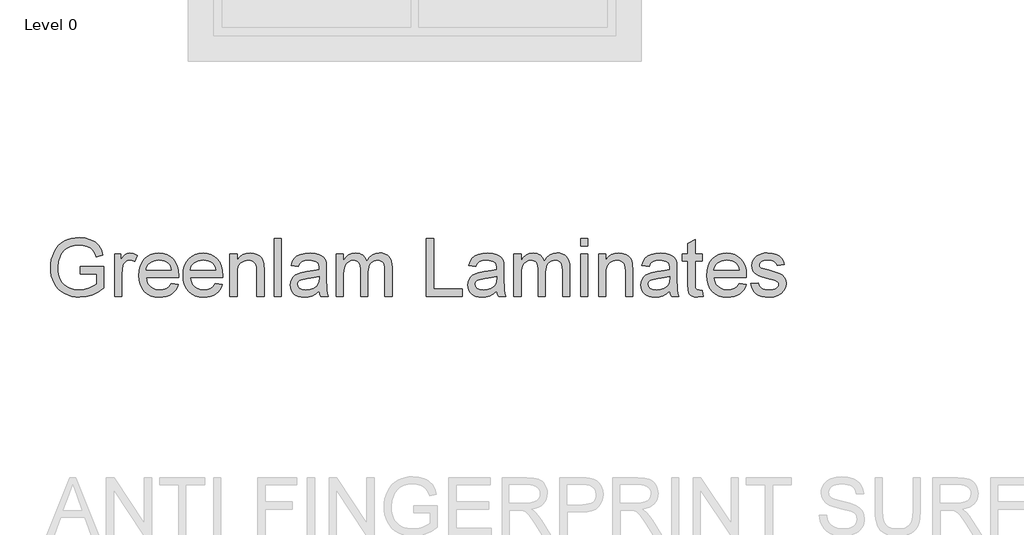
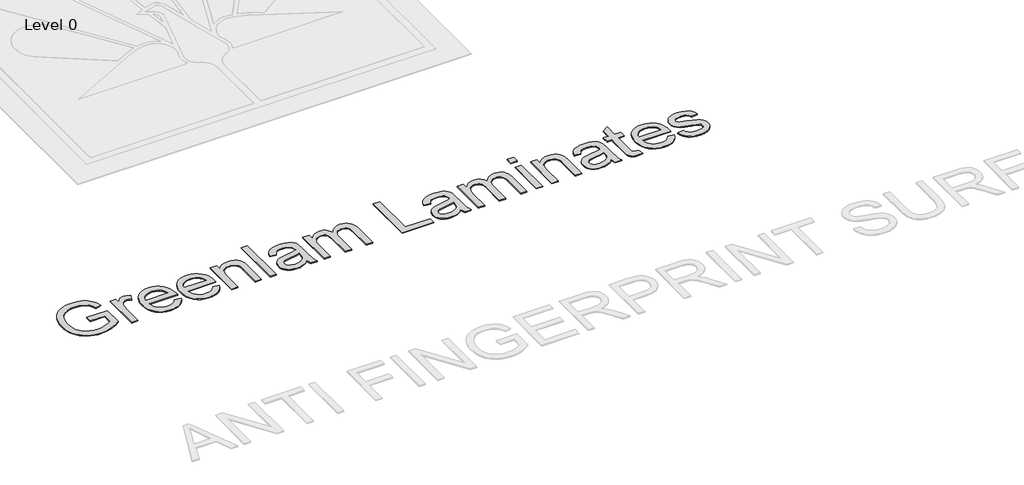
# One storey, part 8 of 8: 1 proxy.
"""IFC4 building model written with IfcOpenShell, lengths in millimetres."""

from ifc_helpers import new_model, si_unit, origin, origin_with_axes, place, context, project, spatial, polyline, outline, extrude, element, save

model = new_model("IFC4")

# Units and contexts
model_context = context("Model", 3, world=origin())
ifc_project = project(units=[si_unit("LENGTHUNIT", "METRE", prefix="MILLI")], contexts=[model_context])

# Site, building, storey
site = spatial("IfcSite", under=ifc_project)
building = spatial("IfcBuilding", under=site)
storey = spatial("IfcBuildingStorey", under=building, Name="Level 0", Elevation=0.0)

# Proxy
placement = place(None, origin())
element("IfcBuildingElementProxy", 1, Name="600mm Arial", ObjectType="600mm Arial", at=placement, inside=storey, context=model_context, shape_type="SweptSolid", body=[
    extrude(outline(polyline([(-10594.9298129, 2995.5724296), (-10594.9298129, 3070.9146622), (-10350.067557, 3070.9146622), (-10350.067557, 2845.6237284), (-10409.5724697, 2804.2370039), (-10470.9535806, 2774.5489269), (-10534.0637368, 2756.6698619), (-10598.7557857, 2750.7101736), (-10642.0325039, 2753.0784139), (-10683.2766741, 2760.183135), (-10722.4882962, 2772.0243367), (-10759.6673704, 2788.6020191), (-10793.6136815, 2809.6678618), (-10823.1270146, 2834.9735446), (-10848.2073696, 2864.5190673), (-10868.8547466, 2898.3044301), (-10884.9817735, 2935.2489794), (-10896.5010785, 2974.2720621), (-10903.4126615, 3015.373678), (-10905.7165225, 3058.5538272), (-10903.4218585, 3101.7385749), (-10896.5378667, 3143.4425975), (-10885.064547, 3183.6658952), (-10869.0018994, 3222.4084678), (-10848.6350324, 3257.9688612), (-10824.2490546, 3288.645621), (-10795.8439661, 3314.4387474), (-10763.4197667, 3335.3482403), (-10727.6800309, 3351.507457), (-10689.3283329, 3363.0497546), (-10648.3646727, 3369.9751331), (-10604.7890504, 3372.2835926), (-10542.7273578, 3366.9309096), (-10486.9196592, 3350.8728605), (-10462.0002525, 3339.1190308), (-10439.9227343, 3325.2682737), (-10420.6871045, 3309.3205892), (-10404.293363, 3291.2759773), (-10377.9346181, 3247.2588966), (-10358.749572, 3191.5799566), (-10428.2056927, 3172.0086345), (-10443.7119188, 3211.7214959), (-10462.5658711, 3241.6854844), (-10487.5082704, 3264.2734389), (-10521.2798375, 3281.8581982), (-10561.5445219, 3293.1705696), (-10605.9662728, 3296.94136), (-10657.9663928, 3292.876264), (-10702.4249319, 3280.6809758), (-10739.1763433, 3261.8822059), (-10768.0550799, 3238.0066644), (-10790.2199701, 3210.2867561), (-10806.8298422, 3179.9548856), (-10824.4881779, 3123.0803291), (-10830.3742899, 3061.6440359), (-10828.6038578, 3024.0235034), (-10823.2925615, 2989.5943472), (-10814.4404009, 2958.3565672), (-10802.0473762, 2930.3101636), (-10786.2744357, 2905.5609024), (-10767.2825277, 2884.2145496), (-10745.0716522, 2866.2711053), (-10719.6418093, 2851.7305695), (-10692.1840169, 2840.496373), (-10663.8892929, 2832.471947), (-10634.7576374, 2827.6572914), (-10604.7890504, 2826.0524062), (-10552.6049894, 2830.8900544), (-10501.7085154, 2845.4029992), (-10457.5074936, 2865.3973856), (-10425.4097896, 2886.679359), (-10425.4097896, 2995.5724296), (-10594.9298129, 2995.5724296)])), origin_with_axes(), (0.0, 0.0, 1.0), 10.0),
    extrude(outline(polyline([(-10237.054208, 2760.1279527), (-10237.054208, 3202.7635693), (-10171.1297545, 3202.7635693), (-10171.1297545, 3137.2805741), (-10146.7759664, 3175.245996), (-10124.3351647, 3197.6132213), (-10101.8207866, 3208.5393166), (-10077.2462693, 3212.1813483), (-10039.7223058, 3206.3688128), (-10001.6097311, 3188.9312062), (-10026.7728596, 3121.3880719), (-10053.2603632, 3132.9763548), (-10079.7478669, 3136.8391157), (-10102.2438509, 3133.1235076), (-10122.3486019, 3121.9766831), (-10138.590592, 3104.244771), (-10149.4982932, 3080.7738997), (-10158.6585549, 3038.6881994), (-10161.7119754, 2992.7765264), (-10161.7119754, 2760.1279527), (-10237.054208, 2760.1279527)])), origin_with_axes(), (0.0, 0.0, 1.0), 10.0),
    extrude(outline(polyline([(-9644.617043, 2891.9768597), (-9570.7463384, 2882.5590807), (-9582.0725053, 2852.9721712), (-9597.3626007, 2826.8985348), (-9616.6166246, 2804.3381714), (-9639.8345771, 2785.2910811), (-9666.7773347, 2770.1619341), (-9697.2057742, 2759.3554005), (-9731.1198956, 2752.8714803), (-9768.519699, 2750.7101736), (-9815.2683035, 2754.4395773), (-9856.9217424, 2765.6277885), (-9893.4800157, 2784.2748071), (-9924.9431233, 2810.3806332), (-9950.2442075, 2843.2186998), (-9968.3164106, 2882.06244), (-9979.1597324, 2926.9118537), (-9982.774173, 2977.766941), (-9979.1229442, 3030.3464752), (-9968.1692578, 3076.6904095), (-9949.9131138, 3116.798744), (-9924.3545121, 3150.6714788), (-9892.9741779, 3177.5820467), (-9857.2528362, 3196.8038809), (-9817.1904869, 3208.3369815), (-9772.7871301, 3212.1813483), (-9729.8139146, 3208.3461785), (-9690.9517803, 3196.8406691), (-9656.2007273, 3177.6648201), (-9625.5607557, 3150.8186315), (-9600.5493785, 3117.0194732), (-9582.6841091, 3076.9847151), (-9571.9649475, 3030.7143572), (-9568.3918936, 2978.2083994), (-9568.833352, 2957.9013133), (-9907.4319404, 2957.9013133), (-9903.0679402, 2927.8361572), (-9894.3905236, 2901.5050034), (-9881.3996907, 2878.9078519), (-9864.0954413, 2860.0447026), (-9843.4342688, 2845.1730729), (-9820.3726662, 2834.5504803), (-9794.9106336, 2828.1769247), (-9767.048171, 2826.0524062), (-9726.9490335, 2829.9887436), (-9693.1774664, 2841.7977556), (-9665.7334695, 2862.2152063), (-9644.617043, 2891.9768597)]), holes=[polyline([(-9907.4319404, 3033.2435459), (-9643.7341262, 3033.2435459), (-9653.9244575, 3073.0483778), (-9662.689246, 3088.7017567), (-9673.9004498, 3101.5224442), (-9694.4466593, 3116.973488), (-9717.82556, 3128.0099478), (-9744.0371522, 3134.6318238), (-9773.0814357, 3136.8391157), (-9799.5735379, 3135.0778807), (-9823.8675452, 3129.7941755), (-9845.9634575, 3120.9880003), (-9865.8612749, 3108.6593549), (-9882.558519, 3093.3784565), (-9895.0527112, 3075.7155222), (-9903.3438517, 3055.670552), (-9907.4319404, 3033.2435459)])]), origin_with_axes(), (0.0, 0.0, 1.0), 10.0),
    extrude(outline(polyline([(-9183.1458683, 2891.9768597), (-9109.2751636, 2882.5590807), (-9120.6013305, 2852.9721712), (-9135.891426, 2826.8985348), (-9155.1454499, 2804.3381714), (-9178.3634023, 2785.2910811), (-9205.3061599, 2770.1619341), (-9235.7345995, 2759.3554005), (-9269.6487209, 2752.8714803), (-9307.0485242, 2750.7101736), (-9353.7971288, 2754.4395773), (-9395.4505677, 2765.6277885), (-9432.0088409, 2784.2748071), (-9463.4719486, 2810.3806332), (-9488.7730328, 2843.2186998), (-9506.8452358, 2882.06244), (-9517.6885576, 2926.9118537), (-9521.3029982, 2977.766941), (-9517.6517694, 3030.3464752), (-9506.698083, 3076.6904095), (-9488.441939, 3116.798744), (-9462.8833374, 3150.6714788), (-9431.5030032, 3177.5820467), (-9395.7816615, 3196.8038809), (-9355.7193122, 3208.3369815), (-9311.3159554, 3212.1813483), (-9268.3427398, 3208.3461785), (-9229.4806055, 3196.8406691), (-9194.7295526, 3177.6648201), (-9164.0895809, 3150.8186315), (-9139.0782038, 3117.0194732), (-9121.2129344, 3076.9847151), (-9110.4937727, 3030.7143572), (-9106.9207189, 2978.2083994), (-9107.3621772, 2957.9013133), (-9445.9607656, 2957.9013133), (-9441.5967654, 2927.8361572), (-9432.9193489, 2901.5050034), (-9419.9285159, 2878.9078519), (-9402.6242666, 2860.0447026), (-9381.963094, 2845.1730729), (-9358.9014915, 2834.5504803), (-9333.4394589, 2828.1769247), (-9305.5769962, 2826.0524062), (-9265.4778588, 2829.9887436), (-9231.7062916, 2841.7977556), (-9204.2622948, 2862.2152063), (-9183.1458683, 2891.9768597)]), holes=[polyline([(-9445.9607656, 3033.2435459), (-9182.2629515, 3033.2435459), (-9192.4532827, 3073.0483778), (-9201.2180713, 3088.7017567), (-9212.4292751, 3101.5224442), (-9232.9754845, 3116.973488), (-9256.3543853, 3128.0099478), (-9282.5659775, 3134.6318238), (-9311.610261, 3136.8391157), (-9338.1023631, 3135.0778807), (-9362.3963704, 3129.7941755), (-9384.4922827, 3120.9880003), (-9404.3901002, 3108.6593549), (-9421.0873442, 3093.3784565), (-9433.5815365, 3075.7155222), (-9441.8726769, 3055.670552), (-9445.9607656, 3033.2435459)])]), origin_with_axes(), (0.0, 0.0, 1.0), 10.0),
    extrude(outline(polyline([(-9031.5784862, 2760.1279527), (-9031.5784862, 3202.7635693), (-8956.2362536, 3202.7635693), (-8956.2362536, 3140.9593941), (-8930.0614497, 3172.1189991), (-8898.6259332, 3194.3758598), (-8861.9297042, 3207.7299762), (-8819.9727626, 3212.1813483), (-8782.8350752, 3208.5944989), (-8748.8243847, 3197.8339505), (-8720.4606829, 3181.2424725), (-8700.2639614, 3160.1628342), (-8686.5603571, 3134.6502179), (-8677.6760069, 3104.7598058), (-8673.7028813, 3031.9191707), (-8673.7028813, 2760.1279527), (-8749.0451139, 2760.1279527), (-8749.0451139, 3021.7656276), (-8751.2156177, 3060.7243309), (-8757.727129, 3088.4258452), (-8769.7384762, 3108.2730788), (-8788.4084874, 3123.6689403), (-8812.3392112, 3133.5465719), (-8840.132696, 3136.8391157), (-8863.0103575, 3134.9905087), (-8884.2601413, 3129.4446876), (-8903.8820472, 3120.2016525), (-8921.8760753, 3107.2614033), (-8936.9086533, 3089.1524121), (-8947.646209, 3064.4031509), (-8954.0887425, 3033.0136196), (-8956.2362536, 2994.9838184), (-8956.2362536, 2760.1279527), (-9031.5784862, 2760.1279527)])), origin_with_axes(), (0.0, 0.0, 1.0), 10.0),
    extrude(outline(polyline([(-8570.1073115, 2760.1279527), (-8570.1073115, 3362.8658136), (-8494.7650789, 3362.8658136), (-8494.7650789, 2760.1279527), (-8570.1073115, 2760.1279527)])), origin_with_axes(), (0.0, 0.0, 1.0), 10.0),
    extrude(outline(polyline([(-8099.2183577, 2816.6346271), (-8135.2156109, 2785.7693277), (-8172.2797219, 2765.5726062), (-8211.2568193, 2754.4257817), (-8252.9930316, 2750.7101736), (-8286.5392711, 2752.9450567), (-8315.9560351, 2759.6497061), (-8341.2433238, 2770.8241217), (-8362.401137, 2786.4683035), (-8379.1075781, 2805.5889702), (-8391.0407503, 2827.1928404), (-8398.2006537, 2851.279914), (-8400.5872881, 2877.8501911), (-8396.9820446, 2909.0833725), (-8386.1663139, 2937.4470743), (-8369.4828654, 2961.727286), (-8348.2744684, 2980.709997), (-8323.3504632, 2995.0573948), (-8295.5201903, 3005.4316671), (-8230.3315007, 3016.7624325), (-8153.297011, 3028.6818092), (-8099.6598161, 3042.661325), (-8099.2183577, 3059.4367439), (-8104.4054938, 3093.0611583), (-8110.889414, 3105.5139638), (-8119.9669022, 3115.0605016), (-8135.6570693, 3124.5886453), (-8154.7685389, 3131.3944622), (-8203.2553859, 3136.8391157), (-8248.1369893, 3133.2154781), (-8279.4805353, 3122.3445651), (-8300.8544792, 3102.2398141), (-8315.8272764, 3070.9146622), (-8391.169509, 3080.3324413), (-8378.0913041, 3121.5352247), (-8358.5751643, 3153.9088403), (-8330.8000736, 3178.6672986), (-8292.9450163, 3197.0246101), (-8246.6470672, 3208.3921638), (-8193.5433012, 3212.1813483), (-8142.610039, 3208.8336222), (-8102.23499, 3198.7904437), (-8071.7927549, 3183.6888878), (-8050.6579343, 3165.1660294), (-8036.6416303, 3142.2653752), (-8027.554945, 3114.030432), (-8023.8761251, 3048.1059785), (-8023.8761251, 2954.3696461), (-8020.0501523, 2823.4772322), (-8014.3847696, 2791.1220108), (-8005.0405669, 2760.1279527), (-8080.3827995, 2760.1279527), (-8092.449329, 2786.3211507), (-8099.2183577, 2816.6346271)]), holes=[polyline([(-8099.2183577, 2967.3190924), (-8149.8389202, 2954.7743163), (-8220.7665689, 2944.2161031), (-8285.5873764, 2932.0024208), (-8302.4547659, 2923.6514995), (-8314.9443596, 2912.1367931), (-8322.6698815, 2898.3412183), (-8325.2450555, 2883.1476919), (-8319.6348551, 2860.7436784), (-8302.8042538, 2842.3863668), (-8275.1211337, 2830.1358964), (-8236.9533767, 2826.0524062), (-8196.4863572, 2830.5589606), (-8160.7282273, 2844.078624), (-8131.739126, 2863.999434), (-8111.5791927, 2887.7094286), (-8102.6396602, 2912.1367931), (-8099.6598161, 2945.9819366), (-8099.2183577, 2967.3190924)])]), origin_with_axes(), (0.0, 0.0, 1.0), 10.0),
    extrude(outline(polyline([(-7920.2805552, 2760.1279527), (-7920.2805552, 3202.7635693), (-7844.9383226, 3202.7635693), (-7844.9383226, 3129.9229342), (-7822.2767917, 3163.3818017), (-7793.1405377, 3189.5933938), (-7758.5228419, 3206.5343597), (-7719.4169858, 3212.1813483), (-7677.5152266, 3206.4239951), (-7659.6821469, 3199.2273036), (-7643.9276004, 3189.1519354), (-7618.8380484, 3161.5056035), (-7602.4305114, 3124.6254335), (-7574.9681204, 3162.9311462), (-7543.6429685, 3190.2923696), (-7508.4550557, 3206.7091037), (-7469.4043819, 3212.1813483), (-7439.2426568, 3209.9050785), (-7412.7689488, 3203.076269), (-7389.9832577, 3191.6949197), (-7370.8855836, 3175.7610308), (-7355.7886262, 3155.0906612), (-7345.0050853, 3129.4998699), (-7338.5349607, 3098.988657), (-7336.3782525, 3063.5570223), (-7336.3782525, 2760.1279527), (-7411.7204851, 2760.1279527), (-7411.7204851, 3031.1834067), (-7413.4679246, 3068.7625525), (-7418.710243, 3094.0912279), (-7428.5326923, 3111.436864), (-7444.0205243, 3125.0668919), (-7463.9413343, 3133.8960598), (-7487.0627177, 3136.8391157), (-7508.413669, 3134.9537205), (-7527.8792251, 3129.2975348), (-7545.4593859, 3119.8705587), (-7561.1541515, 3106.6727921), (-7574.062211, 3089.317959), (-7583.2822535, 3067.4197832), (-7588.814279, 3040.9782648), (-7590.6582875, 3009.9934038), (-7590.6582875, 2760.1279527), (-7666.0005201, 2760.1279527), (-7666.0005201, 3039.5711162), (-7670.3599218, 3082.1718512), (-7675.8091738, 3098.8920879), (-7683.4381267, 3112.5589041), (-7693.5502831, 3123.1814967), (-7706.4491455, 3130.7690628), (-7722.1347141, 3135.3216025), (-7740.6069888, 3136.8391157), (-7769.6328782, 3132.7924138), (-7796.3778992, 3120.6523079), (-7818.4508189, 3100.7131038), (-7833.4604044, 3073.269107), (-7842.068843, 3035.1933205), (-7844.9383226, 2983.3587473), (-7844.9383226, 2760.1279527), (-7920.2805552, 2760.1279527)])), origin_with_axes(), (0.0, 0.0, 1.0), 10.0),
    extrude(outline(polyline([(-6978.5026476, 2760.1279527), (-6978.5026476, 3362.8658136), (-6903.1604149, 3362.8658136), (-6903.1604149, 2835.4701853), (-6601.7914845, 2835.4701853), (-6601.7914845, 2760.1279527), (-6978.5026476, 2760.1279527)])), origin_with_axes(), (0.0, 0.0, 1.0), 10.0),
    extrude(outline(polyline([(-6243.9158796, 2816.6346271), (-6279.9131328, 2785.7693277), (-6316.9772438, 2765.5726062), (-6355.9543412, 2754.4257817), (-6397.6905536, 2750.7101736), (-6431.236793, 2752.9450567), (-6460.653557, 2759.6497061), (-6485.9408457, 2770.8241217), (-6507.0986589, 2786.4683035), (-6523.8051, 2805.5889702), (-6535.7382723, 2827.1928404), (-6542.8981756, 2851.279914), (-6545.28481, 2877.8501911), (-6541.6795665, 2909.0833725), (-6530.8638358, 2937.4470743), (-6514.1803873, 2961.727286), (-6492.9719903, 2980.709997), (-6468.0479852, 2995.0573948), (-6440.2177122, 3005.4316671), (-6375.0290227, 3016.7624325), (-6297.9945329, 3028.6818092), (-6244.357338, 3042.661325), (-6243.9158796, 3059.4367439), (-6249.1030157, 3093.0611583), (-6255.5869359, 3105.5139638), (-6264.6644241, 3115.0605016), (-6280.3545912, 3124.5886453), (-6299.4660609, 3131.3944622), (-6347.9529078, 3136.8391157), (-6392.8345112, 3133.2154781), (-6424.1780572, 3122.3445651), (-6445.5520011, 3102.2398141), (-6460.5247984, 3070.9146622), (-6535.867031, 3080.3324413), (-6522.788826, 3121.5352247), (-6503.2726862, 3153.9088403), (-6475.4975956, 3178.6672986), (-6437.6425383, 3197.0246101), (-6391.3445892, 3208.3921638), (-6338.2408232, 3212.1813483), (-6287.3075609, 3208.8336222), (-6246.932512, 3198.7904437), (-6216.4902768, 3183.6888878), (-6195.3554562, 3165.1660294), (-6181.3391522, 3142.2653752), (-6172.2524669, 3114.030432), (-6168.573647, 3048.1059785), (-6168.573647, 2954.3696461), (-6164.7476742, 2823.4772322), (-6159.0822915, 2791.1220108), (-6149.7380888, 2760.1279527), (-6225.0803214, 2760.1279527), (-6237.1468509, 2786.3211507), (-6243.9158796, 2816.6346271)]), holes=[polyline([(-6243.9158796, 2967.3190924), (-6294.5364421, 2954.7743163), (-6365.4640908, 2944.2161031), (-6430.2848983, 2932.0024208), (-6447.1522878, 2923.6514995), (-6459.6418816, 2912.1367931), (-6467.3674035, 2898.3412183), (-6469.9425774, 2883.1476919), (-6464.332377, 2860.7436784), (-6447.5017757, 2842.3863668), (-6419.8186556, 2830.1358964), (-6381.6508986, 2826.0524062), (-6341.1838791, 2830.5589606), (-6305.4257492, 2844.078624), (-6276.436648, 2863.999434), (-6256.2767146, 2887.7094286), (-6247.3371821, 2912.1367931), (-6244.357338, 2945.9819366), (-6243.9158796, 2967.3190924)])]), origin_with_axes(), (0.0, 0.0, 1.0), 10.0),
    extrude(outline(polyline([(-6064.9780771, 2760.1279527), (-6064.9780771, 3202.7635693), (-5989.6358445, 3202.7635693), (-5989.6358445, 3129.9229342), (-5966.9743136, 3163.3818017), (-5937.8380596, 3189.5933938), (-5903.2203639, 3206.5343597), (-5864.1145078, 3212.1813483), (-5822.2127485, 3206.4239951), (-5804.3796688, 3199.2273036), (-5788.6251224, 3189.1519354), (-5763.5355703, 3161.5056035), (-5747.1280333, 3124.6254335), (-5719.6656424, 3162.9311462), (-5688.3404905, 3190.2923696), (-5653.1525776, 3206.7091037), (-5614.1019038, 3212.1813483), (-5583.9401788, 3209.9050785), (-5557.4664707, 3203.076269), (-5534.6807796, 3191.6949197), (-5515.5831055, 3175.7610308), (-5500.4861482, 3155.0906612), (-5489.7026072, 3129.4998699), (-5483.2324826, 3098.988657), (-5481.0757744, 3063.5570223), (-5481.0757744, 2760.1279527), (-5556.418007, 2760.1279527), (-5556.418007, 3031.1834067), (-5558.1654465, 3068.7625525), (-5563.4077649, 3094.0912279), (-5573.2302142, 3111.436864), (-5588.7180462, 3125.0668919), (-5608.6388562, 3133.8960598), (-5631.7602396, 3136.8391157), (-5653.1111909, 3134.9537205), (-5672.576747, 3129.2975348), (-5690.1569078, 3119.8705587), (-5705.8516734, 3106.6727921), (-5718.759733, 3089.317959), (-5727.9797755, 3067.4197832), (-5733.511801, 3040.9782648), (-5735.3558095, 3009.9934038), (-5735.3558095, 2760.1279527), (-5810.6980421, 2760.1279527), (-5810.6980421, 3039.5711162), (-5815.0574437, 3082.1718512), (-5820.5066958, 3098.8920879), (-5828.1356486, 3112.5589041), (-5838.247805, 3123.1814967), (-5851.1466674, 3130.7690628), (-5866.832236, 3135.3216025), (-5885.3045107, 3136.8391157), (-5914.3304001, 3132.7924138), (-5941.0754212, 3120.6523079), (-5963.1483409, 3100.7131038), (-5978.1579263, 3073.269107), (-5986.766365, 3035.1933205), (-5989.6358445, 2983.3587473), (-5989.6358445, 2760.1279527), (-6064.9780771, 2760.1279527)])), origin_with_axes(), (0.0, 0.0, 1.0), 10.0),
    extrude(outline(polyline([(-5368.0624255, 3287.523581), (-5368.0624255, 3362.8658136), (-5292.7201929, 3362.8658136), (-5292.7201929, 3287.523581), (-5368.0624255, 3287.523581)])), origin_with_axes(), (0.0, 0.0, 1.0), 10.0),
    extrude(outline(polyline([(-5368.0624255, 2760.1279527), (-5368.0624255, 3202.7635693), (-5292.7201929, 3202.7635693), (-5292.7201929, 2760.1279527), (-5368.0624255, 2760.1279527)])), origin_with_axes(), (0.0, 0.0, 1.0), 10.0),
    extrude(outline(polyline([(-5179.7068439, 2760.1279527), (-5179.7068439, 3202.7635693), (-5104.3646113, 3202.7635693), (-5104.3646113, 3140.9593941), (-5078.1898074, 3172.1189991), (-5046.7542909, 3194.3758598), (-5010.0580619, 3207.7299762), (-4968.1011203, 3212.1813483), (-4930.9634329, 3208.5944989), (-4896.9527424, 3197.8339505), (-4868.5890406, 3181.2424725), (-4848.3923191, 3160.1628342), (-4834.6887148, 3134.6502179), (-4825.8043646, 3104.7598058), (-4821.831239, 3031.9191707), (-4821.831239, 2760.1279527), (-4897.1734716, 2760.1279527), (-4897.1734716, 3021.7656276), (-4899.3439754, 3060.7243309), (-4905.8554867, 3088.4258452), (-4917.8668339, 3108.2730788), (-4936.5368451, 3123.6689403), (-4960.4675689, 3133.5465719), (-4988.2610537, 3136.8391157), (-5011.1387152, 3134.9905087), (-5032.388499, 3129.4446876), (-5052.0104049, 3120.2016525), (-5070.004433, 3107.2614033), (-5085.037011, 3089.1524121), (-5095.7745667, 3064.4031509), (-5102.2171002, 3033.0136196), (-5104.3646113, 2994.9838184), (-5104.3646113, 2760.1279527), (-5179.7068439, 2760.1279527)])), origin_with_axes(), (0.0, 0.0, 1.0), 10.0),
    extrude(outline(polyline([(-4435.7022969, 2816.6346271), (-4471.6995501, 2785.7693277), (-4508.7636611, 2765.5726062), (-4547.7407585, 2754.4257817), (-4589.4769709, 2750.7101736), (-4623.0232103, 2752.9450567), (-4652.4399744, 2759.6497061), (-4677.727263, 2770.8241217), (-4698.8850762, 2786.4683035), (-4715.5915174, 2805.5889702), (-4727.5246896, 2827.1928404), (-4734.6845929, 2851.279914), (-4737.0712273, 2877.8501911), (-4733.4659838, 2909.0833725), (-4722.6502531, 2937.4470743), (-4705.9668047, 2961.727286), (-4684.7584076, 2980.709997), (-4659.8344025, 2995.0573948), (-4632.0041295, 3005.4316671), (-4566.81544, 3016.7624325), (-4489.7809502, 3028.6818092), (-4436.1437553, 3042.661325), (-4435.7022969, 3059.4367439), (-4440.889433, 3093.0611583), (-4447.3733532, 3105.5139638), (-4456.4508414, 3115.0605016), (-4472.1410085, 3124.5886453), (-4491.2524782, 3131.3944622), (-4539.7393251, 3136.8391157), (-4584.6209285, 3133.2154781), (-4615.9644745, 3122.3445651), (-4637.3384185, 3102.2398141), (-4652.3112157, 3070.9146622), (-4727.6534483, 3080.3324413), (-4714.5752433, 3121.5352247), (-4695.0591035, 3153.9088403), (-4667.2840129, 3178.6672986), (-4629.4289556, 3197.0246101), (-4583.1310065, 3208.3921638), (-4530.0272405, 3212.1813483), (-4479.0939782, 3208.8336222), (-4438.7189293, 3198.7904437), (-4408.2766942, 3183.6888878), (-4387.1418735, 3165.1660294), (-4373.1255695, 3142.2653752), (-4364.0388842, 3114.030432), (-4360.3600643, 3048.1059785), (-4360.3600643, 2954.3696461), (-4356.5340915, 2823.4772322), (-4350.8687088, 2791.1220108), (-4341.5245061, 2760.1279527), (-4416.8667387, 2760.1279527), (-4428.9332682, 2786.3211507), (-4435.7022969, 2816.6346271)]), holes=[polyline([(-4435.7022969, 2967.3190924), (-4486.3228594, 2954.7743163), (-4557.2505081, 2944.2161031), (-4622.0713157, 2932.0024208), (-4638.9387051, 2923.6514995), (-4651.4282989, 2912.1367931), (-4659.1538208, 2898.3412183), (-4661.7289947, 2883.1476919), (-4656.1187943, 2860.7436784), (-4639.288193, 2842.3863668), (-4611.6050729, 2830.1358964), (-4573.4373159, 2826.0524062), (-4532.9702964, 2830.5589606), (-4497.2121665, 2844.078624), (-4468.2230653, 2863.999434), (-4448.0631319, 2887.7094286), (-4439.1235995, 2912.1367931), (-4436.1437553, 2945.9819366), (-4435.7022969, 2967.3190924)])]), origin_with_axes(), (0.0, 0.0, 1.0), 10.0),
    extrude(outline(polyline([(-4096.6622501, 2822.9621974), (-4087.2444711, 2757.9206607), (-4143.6039927, 2750.7101736), (-4179.7667929, 2753.8371706), (-4206.7325431, 2763.2181614), (-4225.7888304, 2777.6759238), (-4238.2232419, 2796.0332354), (-4245.065847, 2827.5607224), (-4247.3467154, 2881.5290111), (-4247.3467154, 3127.4213367), (-4303.8533898, 3127.4213367), (-4303.8533898, 3202.7635693), (-4247.3467154, 3202.7635693), (-4247.3467154, 3310.3322647), (-4172.0044828, 3354.6252569), (-4172.0044828, 3202.7635693), (-4096.6622501, 3202.7635693), (-4096.6622501, 3127.4213367), (-4172.0044828, 3127.4213367), (-4172.0044828, 2883.7363031), (-4168.0313572, 2844.8879644), (-4155.1554874, 2831.1291777), (-4144.2845744, 2827.3215991), (-4129.4773241, 2826.0524062), (-4096.6622501, 2822.9621974)])), origin_with_axes(), (0.0, 0.0, 1.0), 10.0),
    extrude(outline(polyline([(-3711.4162248, 2891.9768597), (-3637.5455202, 2882.5590807), (-3648.8716871, 2852.9721712), (-3664.1617825, 2826.8985348), (-3683.4158064, 2804.3381714), (-3706.6337589, 2785.2910811), (-3733.5765165, 2770.1619341), (-3764.004956, 2759.3554005), (-3797.9190774, 2752.8714803), (-3835.3188808, 2750.7101736), (-3882.0674853, 2754.4395773), (-3923.7209242, 2765.6277885), (-3960.2791975, 2784.2748071), (-3991.7423051, 2810.3806332), (-4017.0433893, 2843.2186998), (-4035.1155923, 2882.06244), (-4045.9589142, 2926.9118537), (-4049.5733548, 2977.766941), (-4045.922126, 3030.3464752), (-4034.9684396, 3076.6904095), (-4016.7122955, 3116.798744), (-3991.1536939, 3150.6714788), (-3959.7733597, 3177.5820467), (-3924.052018, 3196.8038809), (-3883.9896687, 3208.3369815), (-3839.5863119, 3212.1813483), (-3796.6130964, 3208.3461785), (-3757.7509621, 3196.8406691), (-3722.9999091, 3177.6648201), (-3692.3599374, 3150.8186315), (-3667.3485603, 3117.0194732), (-3649.4832909, 3076.9847151), (-3638.7641293, 3030.7143572), (-3635.1910754, 2978.2083994), (-3635.6325338, 2957.9013133), (-3974.2311221, 2957.9013133), (-3969.867122, 2927.8361572), (-3961.1897054, 2901.5050034), (-3948.1988725, 2878.9078519), (-3930.8946231, 2860.0447026), (-3910.2334506, 2845.1730729), (-3887.171848, 2834.5504803), (-3861.7098154, 2828.1769247), (-3833.8473528, 2826.0524062), (-3793.7482153, 2829.9887436), (-3759.9766482, 2841.7977556), (-3732.5326513, 2862.2152063), (-3711.4162248, 2891.9768597)]), holes=[polyline([(-3974.2311221, 3033.2435459), (-3710.533308, 3033.2435459), (-3720.7236393, 3073.0483778), (-3729.4884278, 3088.7017567), (-3740.6996316, 3101.5224442), (-3761.245841, 3116.973488), (-3784.6247418, 3128.0099478), (-3810.836334, 3134.6318238), (-3839.8806175, 3136.8391157), (-3866.3727197, 3135.0778807), (-3890.6667269, 3129.7941755), (-3912.7626393, 3120.9880003), (-3932.6604567, 3108.6593549), (-3949.3577007, 3093.3784565), (-3961.851893, 3075.7155222), (-3970.1430335, 3055.670552), (-3974.2311221, 3033.2435459)])]), origin_with_axes(), (0.0, 0.0, 1.0), 10.0),
    extrude(outline(polyline([(-3588.10218, 2891.9768597), (-3512.7599474, 2901.3946388), (-3508.2074077, 2884.2145496), (-3500.877359, 2869.168176), (-3490.7698011, 2856.255518), (-3477.8847343, 2845.4765756), (-3462.1853701, 2836.9785015), (-3443.6349205, 2830.9084485), (-3397.9807649, 2826.0524062), (-3352.8784323, 2830.5037783), (-3335.3488552, 2836.0679935), (-3321.1670043, 2843.8578948), (-3302.4050226, 2863.2084877), (-3297.7145271, 2874.0426125), (-3296.1510286, 2885.6492894), (-3297.7237242, 2895.8212266), (-3302.4418108, 2904.8527296), (-3321.3141571, 2919.494433), (-3349.5307061, 2929.0593649), (-3398.8636817, 2940.9787415), (-3467.6208266, 2960.8627633), (-3512.318489, 2977.8405174), (-3541.0316787, 2996.3633759), (-3561.8354056, 3020.8827109), (-3574.4721521, 3049.8350239), (-3578.6844009, 3081.6568165), (-3575.2998866, 3110.8482528), (-3565.1463435, 3137.7956089), (-3549.1434767, 3161.4320271), (-3528.2109912, 3180.6906496), (-3507.4072644, 3192.8123613), (-3480.3127554, 3202.9842985), (-3448.9876035, 3209.8820859), (-3415.4919479, 3212.1813483), (-3366.4532779, 3208.4841343), (-3323.8157547, 3197.3924921), (-3289.5291527, 3179.9916738), (-3265.5432466, 3157.3669311), (-3249.6507444, 3127.844401), (-3239.6443542, 3089.7502203), (-3314.9865868, 3080.3324413), (-3324.4963364, 3104.0424359), (-3343.3135004, 3121.9031067), (-3371.6220199, 3133.1051135), (-3409.605836, 3136.8391157), (-3452.8687586, 3133.2706604), (-3481.710707, 3122.5652943), (-3497.934303, 3107.1142505), (-3503.3421683, 3089.308762), (-3501.0980882, 3077.7204791), (-3494.3658476, 3067.382995), (-3482.8511412, 3058.149157), (-3466.2596632, 3050.7547289), (-3401.3652793, 3034.7150739), (-3290.7799515, 2999.2512495), (-3261.5701211, 2982.2918896), (-3239.423625, 2959.0785357), (-3225.4625033, 2929.5376115), (-3220.808796, 2893.5955405), (-3226.2718437, 2856.439459), (-3242.6609865, 2821.4906695), (-3269.3508253, 2791.4898928), (-3305.7159605, 2769.1778498), (-3349.6410707, 2755.3270926), (-3399.0108345, 2750.7101736), (-3439.5606274, 2752.9358597), (-3474.9784665, 2759.6129179), (-3505.2643517, 2770.7413482), (-3530.4182832, 2786.3211507), (-3550.9644926, 2806.278749), (-3567.4272119, 2830.5405665), (-3579.806441, 2859.1066035), (-3588.10218, 2891.9768597)])), origin_with_axes(), (0.0, 0.0, 1.0), 10.0),
])

save(model, "model.ifc")
